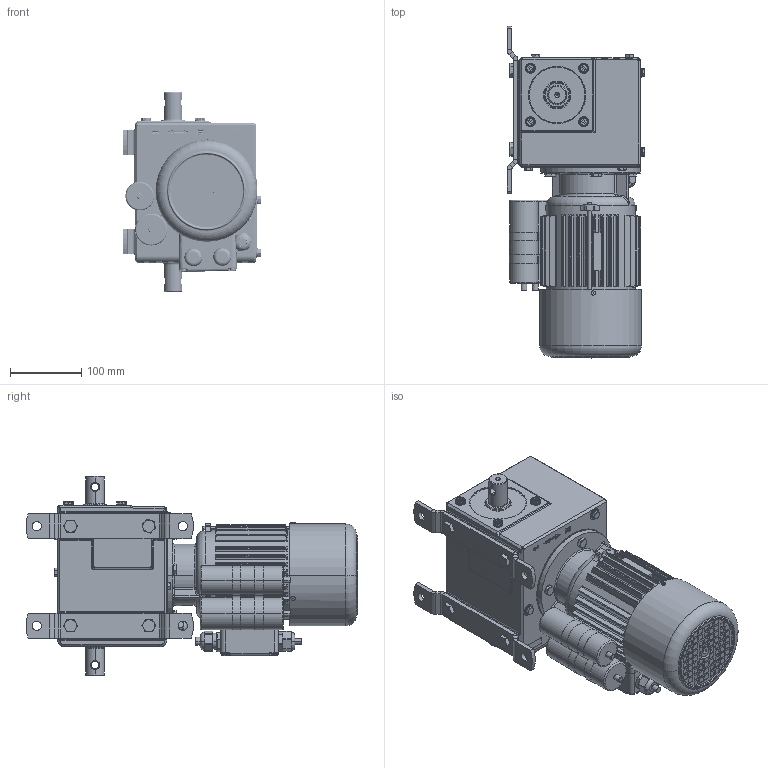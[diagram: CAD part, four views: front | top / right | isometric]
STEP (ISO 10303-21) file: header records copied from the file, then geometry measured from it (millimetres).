
FILE_DESCRIPTION (( 'STEP AP214' ), '1' );
FILE_NAME ('EWA_14_X50X_12214_X50X_0620_STEP_20150204.STEP', '2015-02-04T15:43:46', ( '' ), ( '' ), 'SwSTEP 2.0', 'SolidWorks 2013', '' );
FILE_SCHEMA (( 'AUTOMOTIVE_DESIGN' ));
Length unit declared in the file: millimetre
Products named in the file (1): EWA_14_X50X_12214_X50X_0620_STEP_20150204
Bounding box: 193.1 x 465.67 x 280 mm (x, y, z)
Volume: 5826513 mm3; surface area: 789858.8 mm2
Topology: 46 solids, 49 shells, 6501 faces, 16317 edges, 10255 vertices
Faces by surface type: plane 2764, cylinder 1795, bspline 1063, torus 609, cone 191, sphere 79
Entity records: 320471 total; most frequent: CARTESIAN_POINT 100993, ORIENTED_EDGE 32382, DIRECTION 27535, EDGE_CURVE 16191, VERTEX_POINT 10244, AXIS2_PLACEMENT_3D 9255, LINE 9025, VECTOR 9025
